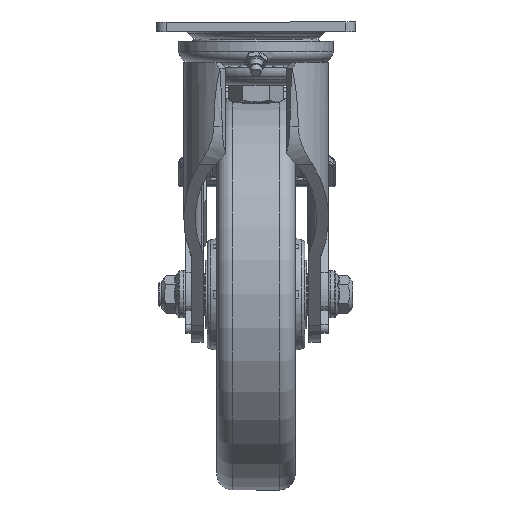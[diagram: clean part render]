
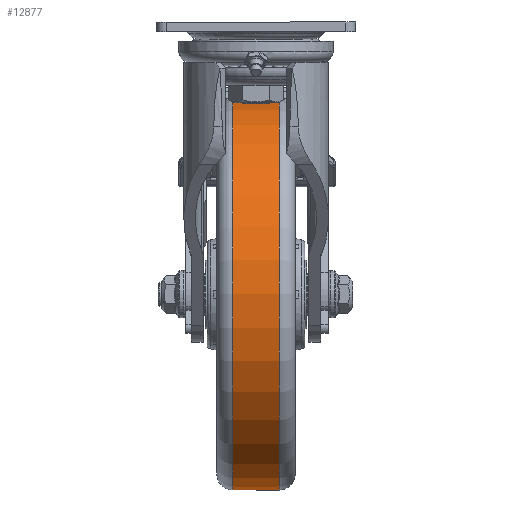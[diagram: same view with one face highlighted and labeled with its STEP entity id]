
A CAD part, left-side view. The second image highlights one B-rep face of the part: STEP entity #12877.
In plain terms, the highlighted cylindrical face has radius 100 mm (diameter 200 mm), a full revolution.
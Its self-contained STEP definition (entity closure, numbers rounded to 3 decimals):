
#12835=CARTESIAN_POINT('',(400.356,278.025,-40.086));
#12836=VERTEX_POINT('',#12835);
#12837=CARTESIAN_POINT('',(300.356,278.025,-40.086));
#12838=DIRECTION('',(0.0,-1.0,0.0));
#12839=DIRECTION('',(-1.0,0.0,0.0));
#12840=AXIS2_PLACEMENT_3D('',#12837,#12838,#12839);
#12841=CIRCLE('',#12840,100.);
#12842=EDGE_CURVE('',#12836,#12836,#12841,.T.);
#12858=CARTESIAN_POINT('',(300.356,290.025,-40.086));
#12859=DIRECTION('',(0.,-1.0,0.));
#12860=DIRECTION('',(1.0,0.0,0.0));
#12861=AXIS2_PLACEMENT_3D('',#12858,#12859,#12860);
#12862=CYLINDRICAL_SURFACE('',#12861,100.);
#12863=CARTESIAN_POINT('',(400.356,302.025,-40.086));
#12864=VERTEX_POINT('',#12863);
#12865=CARTESIAN_POINT('',(300.356,302.025,-40.086));
#12866=DIRECTION('',(0.0,1.0,0.0));
#12867=DIRECTION('',(-1.0,0.0,0.0));
#12868=AXIS2_PLACEMENT_3D('',#12865,#12866,#12867);
#12869=CIRCLE('',#12868,100.);
#12870=EDGE_CURVE('',#12864,#12864,#12869,.T.);
#12871=ORIENTED_EDGE('',*,*,#12870,.F.);
#12872=EDGE_LOOP('',(#12871));
#12873=FACE_OUTER_BOUND('',#12872,.T.);
#12874=ORIENTED_EDGE('',*,*,#12842,.F.);
#12875=EDGE_LOOP('',(#12874));
#12876=FACE_BOUND('',#12875,.T.);
#12877=ADVANCED_FACE('',(#12873,#12876),#12862,.T.);
